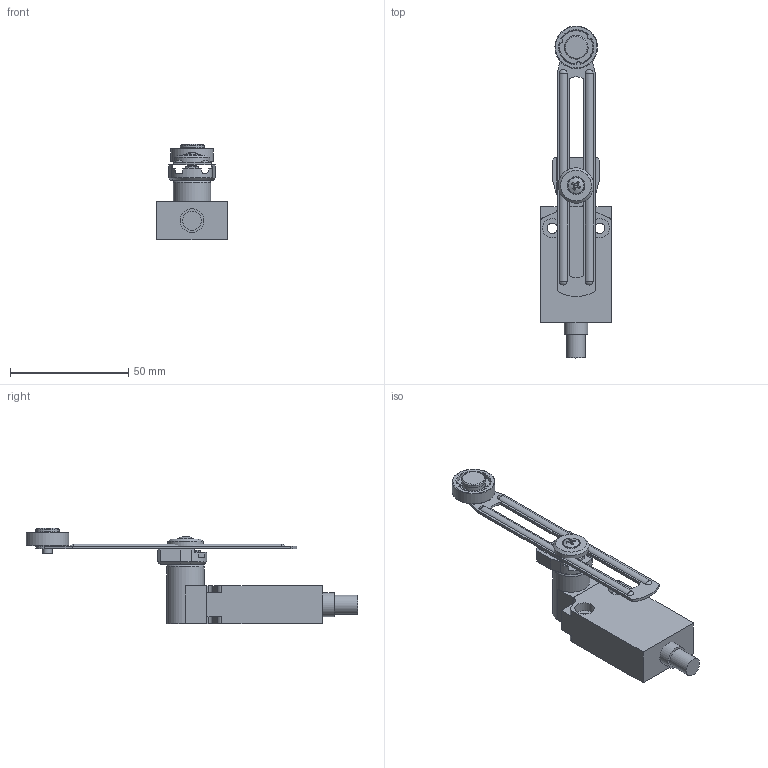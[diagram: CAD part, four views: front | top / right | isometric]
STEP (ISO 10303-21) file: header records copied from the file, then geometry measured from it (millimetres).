
FILE_DESCRIPTION(/* description */ (''),/* implementation_level */ '2;1');
FILE_NAME(/* name */ 'C:\Users\servizio.tecnico\Desktop\BERNSTEIN\3D\STP_EM1_G5140UC.stp',/* time_stamp */ '2020-06-26T10:56:23+02:00',/* author */ ('servizio.tecnico'),/* organization */ (''),/* preprocessor_version */ 'ST-DEVELOPER v17',/* originating_system */ 'Autodesk Inventor 2019',/* authorisation */ '');
FILE_SCHEMA (('AUTOMOTIVE_DESIGN { 1 0 10303 214 3 1 1 }'));
Length unit declared in the file: millimetre
Products named in the file (11): STP_EM1_G41UC; EM1G41; Product; g5120; vi2617pe; to2037pe_2; pl2035pi_2; tr2044pi; to2045pe; pl2049pi_2; fu 4120
Assembly tree (10 placements, depth 4):
  STP_EM1_G41UC
    EM1G41
      Product
      g5120
        vi2617pe
        to2037pe_2
        pl2035pi_2
        tr2044pi
        to2045pe
        pl2049pi_2
        fu 4120
Bounding box: 30 x 140.41 x 40.3 mm (x, y, z)
Volume: 32506.1 mm3; surface area: 15326.4 mm2
Topology: 8 solids, 8 shells, 388 faces, 1068 edges, 711 vertices
Faces by surface type: plane 188, cylinder 155, torus 21, cone 12, sphere 9, bspline 3
Full cylindrical faces by diameter (mm): 2.5 x1, 3.5 x22, 4 x1, 4.1 x2, 4.4 x2, 5 x1, 5.7 x1, 6 x1, 6.1 x1, 7 x1, 7.6 x1, 8 x1, 8.2 x4, 10 x2, 15 x1, 15.8 x1, 18 x1
Entity records: 16020 total; most frequent: CARTESIAN_POINT 5427, DIRECTION 2192, ORIENTED_EDGE 2114, EDGE_CURVE 1057, AXIS2_PLACEMENT_3D 800, VERTEX_POINT 709, LINE 592, VECTOR 592
